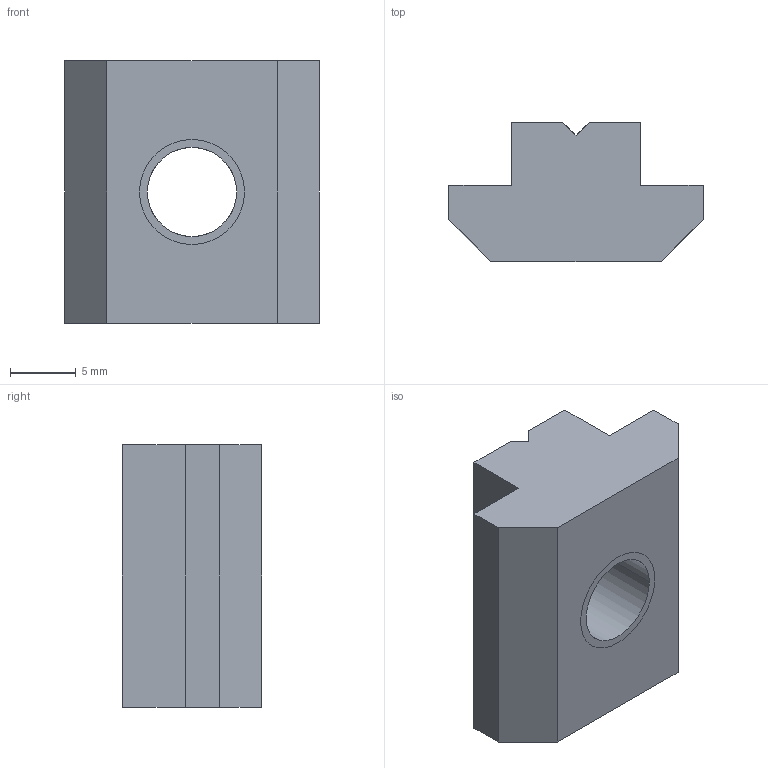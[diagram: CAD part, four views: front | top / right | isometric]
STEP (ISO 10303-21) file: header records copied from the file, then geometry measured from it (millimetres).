
FILE_DESCRIPTION((''),'2;1');
FILE_NAME('DAT0810','2002-12-27T',('Lipro doo'),('Lipro d.o.o.'),'PRO/ENGINEER BY PARAMETRIC TECHNOLOGY CORPORATION, 2001150','PRO/ENGINEER BY PARAMETRIC TECHNOLOGY CORPORATION, 2001150','');
FILE_SCHEMA(('CONFIG_CONTROL_DESIGN'));
Length unit declared in the file: millimetre
Products named in the file (1): DAT0810
Bounding box: 19.4 x 10.6 x 20 mm (x, y, z)
Volume: 2580.9 mm3; surface area: 1834.3 mm2
Topology: 1 solids, 2 shells, 23 faces, 72 edges, 50 vertices
Faces by surface type: plane 17, cylinder 4, cone 2
Entity records: 854 total; most frequent: CARTESIAN_POINT 174, ORIENTED_EDGE 134, DIRECTION 122, EDGE_CURVE 72, VERTEX_POINT 50, VECTOR 46, LINE 46, AXIS2_PLACEMENT_3D 38
